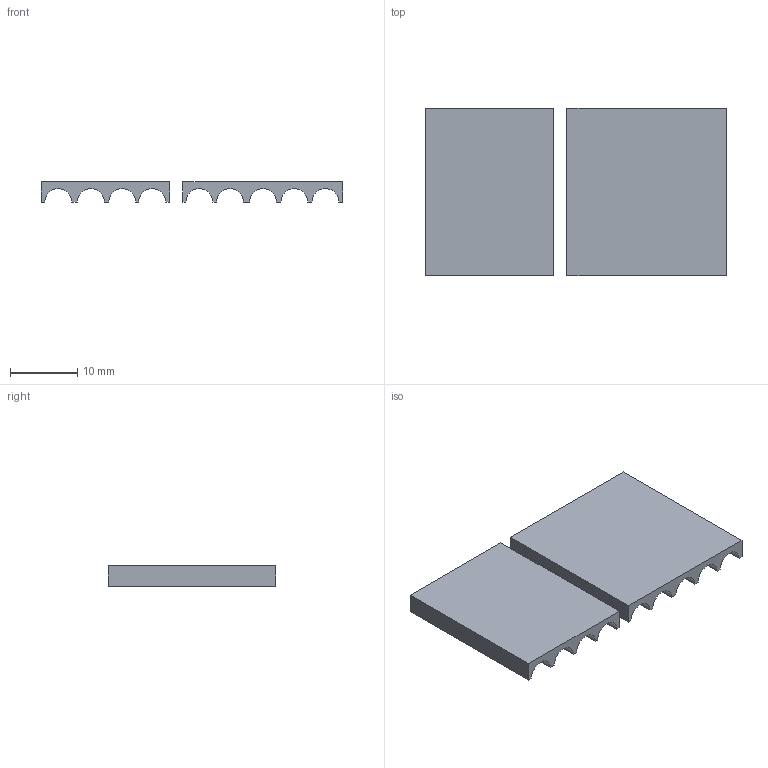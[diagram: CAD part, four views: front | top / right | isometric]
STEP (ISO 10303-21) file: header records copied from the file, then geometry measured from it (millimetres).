
FILE_DESCRIPTION(('STEP AP203'), '1');
FILE_NAME('ïðîêëàäêà ïîäâåñêè âåðõíåé äåêè', '', ('UNSPECIFIED'), ('UNSPECIFIED'), 'ASCON STEP Converter 1.3', 'ASCON Math Kernel', '');
FILE_SCHEMA(('CONFIG_CONTROL_DESIGN'));
Length unit declared in the file: millimetre
Bounding box: 45 x 25 x 3 mm (x, y, z)
Volume: 1811.3 mm3; surface area: 3108.6 mm2
Topology: 2 solids, 2 shells, 30 faces, 78 edges, 52 vertices
Faces by surface type: plane 21, cylinder 9
Entity records: 1210 total; most frequent: CARTESIAN_POINT 161, DIRECTION 158, ORIENTED_EDGE 156, EDGE_CURVE 78, LINE 60, VECTOR 60, VERTEX_POINT 52, AXIS2_PLACEMENT_3D 49
